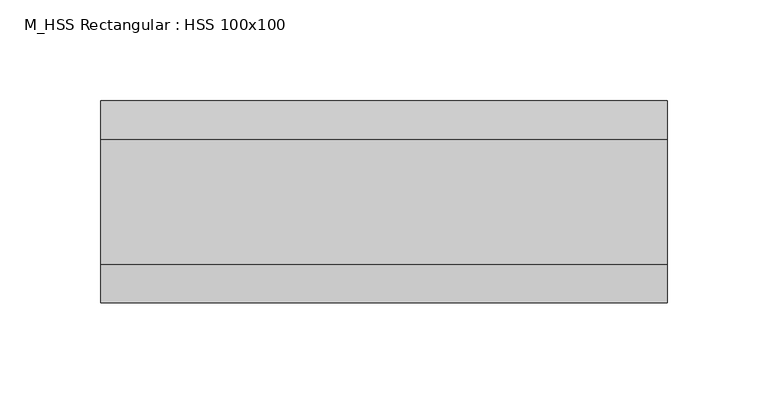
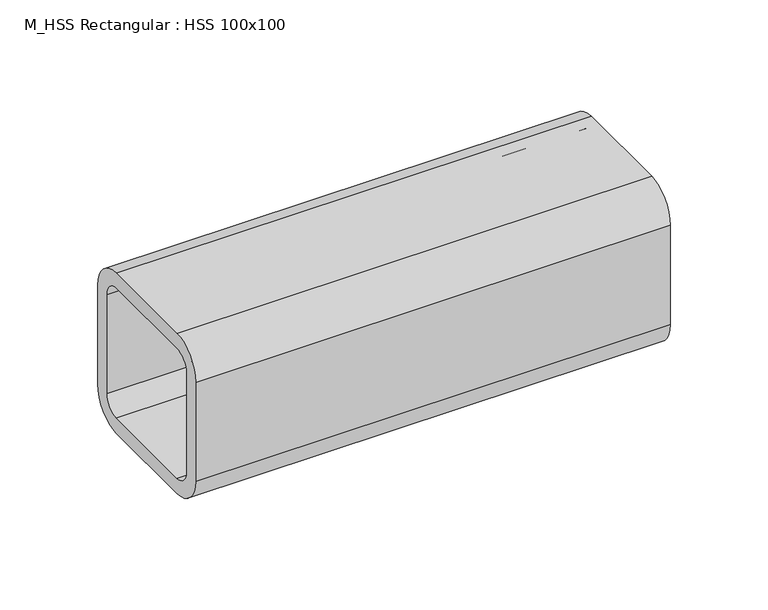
"""IFC4 building model written with IfcOpenShell, lengths in millimetres: beam geometry, M_HSS Rectangular : HSS 100x100."""

import ifcopenshell
import ifcopenshell.guid

model = None  # the IFC model being written
_history = None  # IfcOwnerHistory: only IFC2X3 demands one
_inside = {}  # id of a spatial element -> (the spatial element, [elements in it])
_under = {}  # id of a project, library or spatial element -> (it, [spatial elements below it])
_declared = {}  # id of a project -> (the project, [libraries it declares])
_typed = {}  # id of a type object -> (the type object, [elements of that type])
_made_of = {}  # id of a material, layer set ... -> (it, [elements and type objects made of it])


def new_model(schema):
    """Start an empty IFC model of exactly this schema.

    Asked for "IFC4X3", IfcOpenShell would pick the latest addendum, in which some entities
    have other attributes; the version numbers below select the first issue.
    IFC2X3 requires an IfcOwnerHistory on every rooted entity: one is made here for all.
    """
    global model, _history
    if schema == "IFC4X3":
        model = ifcopenshell.file(schema_version=(4, 3, 0, 0))
    else:
        model = ifcopenshell.file(schema=schema)
    _inside.clear()
    _under.clear()
    _declared.clear()
    _typed.clear()
    _made_of.clear()
    _history = None
    if model.schema == "IFC2X3":
        org = make("IfcOrganization", Name="unknown")
        user = make(
            "IfcPersonAndOrganization",
            ThePerson=make("IfcPerson", FamilyName="unknown"),
            TheOrganization=org,
        )
        app = make(
            "IfcApplication",
            ApplicationDeveloper=org,
            Version="unknown",
            ApplicationFullName="unknown",
            ApplicationIdentifier="unknown",
        )
        _history = make(
            "IfcOwnerHistory",
            OwningUser=user,
            OwningApplication=app,
            ChangeAction="ADDED",
            CreationDate=0,
        )
    return model


def make(cls, **values):
    """One entity of the class cls with the attributes given. An attribute that is None is left unset."""
    return model.create_entity(
        cls, **{name: value for name, value in values.items() if value is not None}
    )


def rooted(cls, **values):
    """An entity with a GlobalId (a new one), such as an element, a storey or a relation."""
    return make(cls, GlobalId=ifcopenshell.guid.new(), OwnerHistory=_history, **values)


def si_unit(unit_type, name, prefix=None):
    """IfcSIUnit, for example si_unit("LENGTHUNIT", "METRE", prefix="MILLI")."""
    return make("IfcSIUnit", UnitType=unit_type, Prefix=prefix, Name=name)


def assignment(units):
    """IfcUnitAssignment: the units of a project."""
    return None if units is None else make("IfcUnitAssignment", Units=units)


def point(xyz):
    """IfcCartesianPoint."""
    return None if xyz is None else make("IfcCartesianPoint", Coordinates=xyz)


def direction(xyz):
    """IfcDirection."""
    return None if xyz is None else make("IfcDirection", DirectionRatios=xyz)


def frame(location, z_axis=None, x_axis=None):
    """IfcAxis2Placement3D, a coordinate frame: its origin and axes. An axis left out is left unset."""
    return make(
        "IfcAxis2Placement3D",
        Location=point(location),
        Axis=direction(z_axis),
        RefDirection=direction(x_axis),
    )


def frame_2d(location, x_axis=None):
    """IfcAxis2Placement2D, a coordinate frame in the plane: its origin and x axis."""
    return make(
        "IfcAxis2Placement2D", Location=point(location), RefDirection=direction(x_axis)
    )


def origin():
    """The frame at (0, 0, 0) with its axes left unset."""
    return frame((0.0, 0.0, 0.0))


def place(relative_to, where):
    """IfcLocalPlacement: puts the frame where relative to a parent placement (None: the world)."""
    return make(
        "IfcLocalPlacement", PlacementRelTo=relative_to, RelativePlacement=where
    )


def context(
    kind, dimensions, precision=None, world=None, true_north=None, identifier=None
):
    """IfcGeometricRepresentationContext, for example the 3D "Model" context."""
    return make(
        "IfcGeometricRepresentationContext",
        ContextIdentifier=identifier,
        ContextType=kind,
        CoordinateSpaceDimension=dimensions,
        Precision=precision,
        WorldCoordinateSystem=world,
        TrueNorth=true_north,
    )


def project(units=None, contexts=None):
    """IfcProject with its units and contexts."""
    return rooted(
        "IfcProject",
        Name="project",
        RepresentationContexts=contexts,
        UnitsInContext=assignment(units),
    )


def spatial(cls, under=None, at=None, **own):
    """A site, building, storey or space (cls), placed at a placement, below another one or the project."""
    s = rooted(cls, ObjectPlacement=at, **own)
    if under is not None:
        _under.setdefault(under.id(), (under, []))[1].append(s)
    return s


def polyline(points):
    """IfcPolyline through the points."""
    return make("IfcPolyline", Points=[point(p) for p in points])


def circle_curve(where, radius):
    """IfcCircle in the frame where."""
    return make("IfcCircle", Position=where, Radius=radius)


def trimmed(basis, trim1, trim2, sense, master):
    """IfcTrimmedCurve: the piece of a basis curve between two trims."""
    return make(
        "IfcTrimmedCurve",
        BasisCurve=basis,
        Trim1=trim1,
        Trim2=trim2,
        SenseAgreement=sense,
        MasterRepresentation=master,
    )


def segment(curve, same_sense, transition):
    """IfcCompositeCurveSegment."""
    return make(
        "IfcCompositeCurveSegment",
        Transition=transition,
        SameSense=same_sense,
        ParentCurve=curve,
    )


def composite_curve(segments, self_intersect=None):
    """IfcCompositeCurve: segments joined end to end."""
    return make("IfcCompositeCurve", Segments=segments, SelfIntersect=self_intersect)


def outline(outer, holes=None, kind="AREA"):
    """IfcArbitraryClosedProfileDef: a profile drawn as a closed curve; with holes, ...WithVoids."""
    if holes is None:
        return make("IfcArbitraryClosedProfileDef", ProfileType=kind, OuterCurve=outer)
    return make(
        "IfcArbitraryProfileDefWithVoids",
        ProfileType=kind,
        OuterCurve=outer,
        InnerCurves=holes,
    )


def extrude(swept, where, along, depth):
    """IfcExtrudedAreaSolid: the profile swept, set in the frame where, extruded along a direction by depth."""
    return make(
        "IfcExtrudedAreaSolid",
        SweptArea=swept,
        Position=where,
        ExtrudedDirection=direction(along),
        Depth=depth,
    )


def shape(context_of_items, identifier, shape_type, items):
    """IfcShapeRepresentation: the items that make up one representation, for example the "Body"."""
    return make(
        "IfcShapeRepresentation",
        ContextOfItems=context_of_items,
        RepresentationIdentifier=identifier,
        RepresentationType=shape_type,
        Items=items,
    )


def source(mapping_origin, context_of_items, identifier, shape_type, items):
    """IfcRepresentationMap: a shape defined once, which mapped items show again and again."""
    return make(
        "IfcRepresentationMap",
        MappingOrigin=mapping_origin,
        MappedRepresentation=shape(context_of_items, identifier, shape_type, items),
    )


def transform(
    local_origin,
    x_axis=None,
    y_axis=None,
    z_axis=None,
    scale=None,
    scale2=None,
    scale3=None,
    uniform=True,
):
    """IfcCartesianTransformationOperator3D, or its non-uniform kind. x_axis, y_axis, z_axis: its Axis1, 2, 3."""
    if uniform:
        return make(
            "IfcCartesianTransformationOperator3D",
            Axis1=direction(x_axis),
            Axis2=direction(y_axis),
            LocalOrigin=point(local_origin),
            Scale=scale,
            Axis3=direction(z_axis),
        )
    return make(
        "IfcCartesianTransformationOperator3DnonUniform",
        Axis1=direction(x_axis),
        Axis2=direction(y_axis),
        LocalOrigin=point(local_origin),
        Scale=scale,
        Axis3=direction(z_axis),
        Scale2=scale2,
        Scale3=scale3,
    )


def mapped(mapping_source, mapping_target):
    """IfcMappedItem: shows the shape of a source again, moved by a transform."""
    return make(
        "IfcMappedItem", MappingSource=mapping_source, MappingTarget=mapping_target
    )


def made_of(thing, what):
    """Note that an element or type object is made of a material, layer set ...; save() writes the relation."""
    if what is not None:
        _made_of.setdefault(what.id(), (what, []))[1].append(thing)
    return thing


def element(
    cls,
    number,
    at=None,
    inside=None,
    cuts=None,
    type_object=None,
    material=None,
    context=None,
    identifier="Body",
    shape_type=None,
    held_by="IfcProductDefinitionShape",
    body=None,
    shapes=None,
    **own,
):
    """One element of the class cls, such as IfcWall. Its Tag is "e" and its number.

    at: its placement. inside: the storey or other place that contains it. cuts: it is an
    opening in that element (IfcRelVoidsElement). A single representation is given by context,
    identifier, shape_type and body (its items); several are given by shapes. held_by: the class
    of the entity that holds the representations. save() writes the other relations.
    """
    e = rooted(cls, Tag="e%d" % number, ObjectPlacement=at, **own)
    if body is not None:
        shapes = [shape(context, identifier, shape_type, body)]
    if shapes is not None:
        e.Representation = make(held_by, Representations=shapes)
    if inside is not None:
        _inside.setdefault(inside.id(), (inside, []))[1].append(e)
    if cuts is not None:
        rooted(
            "IfcRelVoidsElement", RelatingBuildingElement=cuts, RelatedOpeningElement=e
        )
    if type_object is not None:
        _typed.setdefault(type_object.id(), (type_object, []))[1].append(e)
    return made_of(e, material)


def aggregate(whole, parts):
    """IfcRelAggregates: a whole, such as a stair, and the parts it consists of."""
    return rooted("IfcRelAggregates", RelatingObject=whole, RelatedObjects=parts)


def save(model, path):
    """Write the relations noted so far, then the file.

    IfcRelAggregates (storeys below a building ...), IfcRelContainedInSpatialStructure (elements
    in a storey), IfcRelDefinesByType, IfcRelAssociatesMaterial and IfcRelDeclares: one each for
    every whole, place, type object, material and project.
    """
    for whole, parts in _under.values():
        aggregate(whole, parts)
    for where, things in _inside.values():
        rooted(
            "IfcRelContainedInSpatialStructure",
            RelatedElements=things,
            RelatingStructure=where,
        )
    for kind, things in _typed.values():
        rooted("IfcRelDefinesByType", RelatedObjects=things, RelatingType=kind)
    for what, things in _made_of.values():
        rooted("IfcRelAssociatesMaterial", RelatedObjects=things, RelatingMaterial=what)
    for by, libraries in _declared.values():
        rooted("IfcRelDeclares", RelatingContext=by, RelatedDefinitions=libraries)
    model.write(path)


def m_hss_rectangular_hss_100x100_2ae9bc1b(model_context):
    return source(origin(), model_context, "Body", "SweptSolid", [
        extrude(outline(composite_curve([segment(polyline([(50.0, 30.94), (50.0, -30.94)]), True, "CONTINUOUS"), segment(trimmed(circle_curve(frame_2d((30.94, -30.94)), 19.06), [point((50.0, -30.94))], [point((30.94, -50.0))], False, "CARTESIAN"), True, "CONTINUOUS"), segment(polyline([(30.94, -50.0), (-30.94, -50.0)]), True, "CONTINUOUS"), segment(trimmed(circle_curve(frame_2d((-30.94, -30.94)), 19.06), [point((-30.94, -50.0))], [point((-50.0, -30.94))], False, "CARTESIAN"), True, "CONTINUOUS"), segment(polyline([(-50.0, -30.94), (-50.0, 30.94)]), True, "CONTINUOUS"), segment(trimmed(circle_curve(frame_2d((-30.94, 30.94)), 19.06), [point((-50.0, 30.94))], [point((-30.94, 50.0))], False, "CARTESIAN"), True, "CONTINUOUS"), segment(polyline([(-30.94, 50.0), (30.94, 50.0)]), True, "CONTINUOUS"), segment(trimmed(circle_curve(frame_2d((30.94, 30.94)), 19.06), [point((30.94, 50.0))], [point((50.0, 30.94))], False, "CARTESIAN"), True, "CONTINUOUS")], self_intersect=False), holes=[composite_curve([segment(trimmed(circle_curve(frame_2d((-30.94, 30.94)), 9.53), [point((-30.94, 40.47))], [point((-40.47, 30.94))], True, "CARTESIAN"), True, "CONTINUOUS"), segment(polyline([(-40.47, 30.94), (-40.47, -30.94)]), True, "CONTINUOUS"), segment(trimmed(circle_curve(frame_2d((-30.94, -30.94)), 9.53), [point((-40.47, -30.94))], [point((-30.94, -40.47))], True, "CARTESIAN"), True, "CONTINUOUS"), segment(polyline([(-30.94, -40.47), (30.94, -40.47)]), True, "CONTINUOUS"), segment(trimmed(circle_curve(frame_2d((30.94, -30.94)), 9.53), [point((30.94, -40.47))], [point((40.47, -30.94))], True, "CARTESIAN"), True, "CONTINUOUS"), segment(polyline([(40.47, -30.94), (40.47, 30.94)]), True, "CONTINUOUS"), segment(trimmed(circle_curve(frame_2d((30.94, 30.94)), 9.53), [point((40.47, 30.94))], [point((30.94, 40.47))], True, "CARTESIAN"), True, "CONTINUOUS"), segment(polyline([(30.94, 40.47), (-30.94, 40.47)]), True, "CONTINUOUS")], self_intersect=False)]), frame((-140.15, 0.0, 0.0), z_axis=(1.0, 0.0, 0.0), x_axis=(0.0, 1.0, 0.0)), (0.0, 0.0, 1.0), 280.3),
    ])


if __name__ == "__main__":
    model = new_model("IFC4")
    model_context = context("Model", 3, world=origin())
    ifc_project = project(units=[si_unit("LENGTHUNIT", "METRE", prefix="MILLI")], contexts=[model_context])
    site = spatial("IfcSite", under=ifc_project)
    building = spatial("IfcBuilding", under=site)
    placement = place(None, origin())
    m_hss_rectangular_hss_100x100_shape = m_hss_rectangular_hss_100x100_2ae9bc1b(model_context)
    element("IfcBeam", 1, ObjectType="M_HSS Rectangular : HSS 100x100", at=placement, inside=building, context=model_context, shape_type="MappedRepresentation", body=[
        mapped(m_hss_rectangular_hss_100x100_shape, transform((0.0, 0.0, 0.0), x_axis=(1.0, 0.0, 0.0), y_axis=(0.0, 1.0, 0.0), z_axis=(0.0, 0.0, 1.0))),
    ])
    save(model, "model.ifc")
